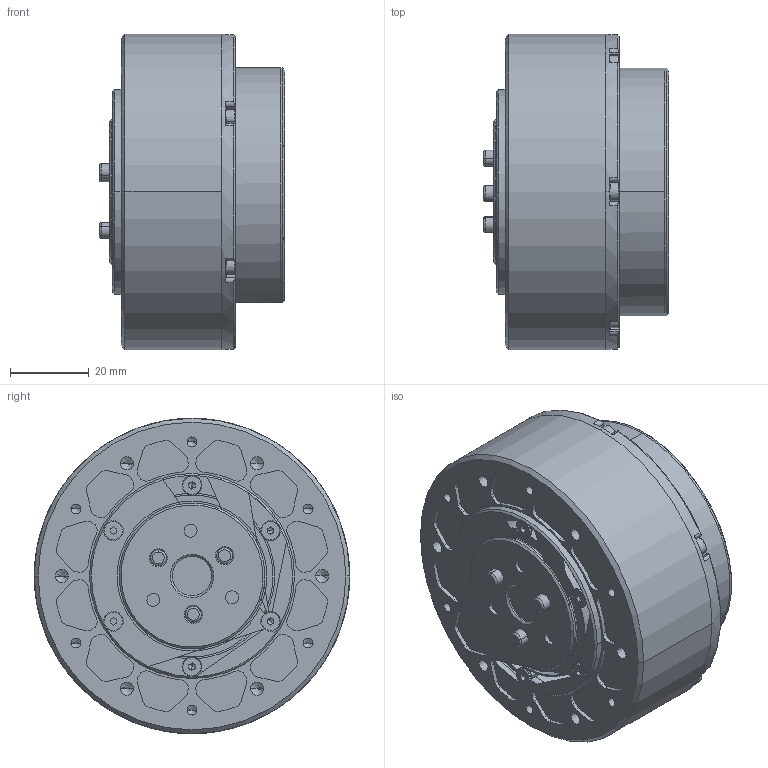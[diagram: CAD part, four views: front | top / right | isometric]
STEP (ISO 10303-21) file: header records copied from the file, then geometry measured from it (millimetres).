
FILE_DESCRIPTION (( 'STEP AP214' ), '1' );
FILE_NAME ('MG6012-i8.STEP', '2023-02-27T09:55:29', ( 'zhang_jianheng@outlook.com' ), ( 'HP' ), 'SwSTEP 2.0', 'SolidWorks 2020', '' );
FILE_SCHEMA (( 'AUTOMOTIVE_DESIGN' ));
Length unit declared in the file: millimetre
Products named in the file (1): MG6012-i8
Bounding box: 47 x 80 x 80 mm (x, y, z)
Volume: 167307 mm3; surface area: 56149.6 mm2
Topology: 45 solids, 49 shells, 2478 faces, 6231 edges, 3984 vertices
Faces by surface type: plane 1331, cylinder 800, cone 180, bspline 127, torus 40
Entity records: 108598 total; most frequent: CARTESIAN_POINT 21054, DIRECTION 12471, ORIENTED_EDGE 12358, EDGE_CURVE 6179, AXIS2_PLACEMENT_3D 4324, VERTEX_POINT 3984, VECTOR 3823, LINE 3823
